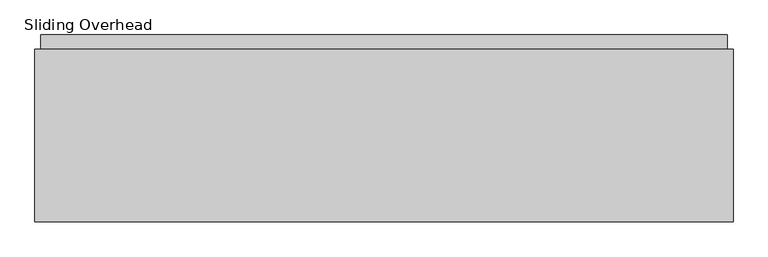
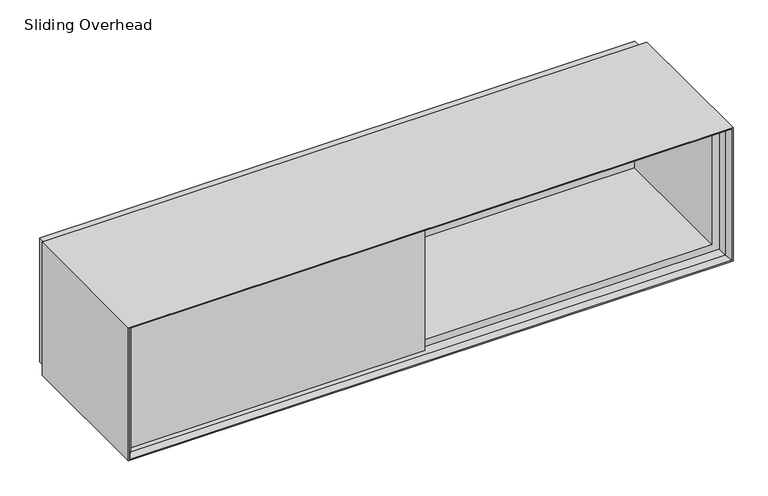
"""IFC4 building model written with IfcOpenShell, lengths in millimetres: furniture geometry."""

from ifc_helpers import new_model, si_unit, frame, origin, place, context, project, spatial, polyline, outline, extrude, faceted_brep, source, transform, mapped, element, save


def sliding_overhead_03807ef4(model_context):
    return source(origin(), model_context, "Body", "SolidModel", [
        extrude(outline(polyline([(609.6, 38.1), (31.75, 38.1), (31.75, 50.8), (609.6, 50.8), (609.6, 38.1)])), frame((0.0, 0.0, 1555.75), z_axis=(0.0, 0.0, 1.0), x_axis=(1.0, 0.0, 0.0)), (0.0, 0.0, 1.0), 292.1),
        extrude(outline(polyline([(762.0, 25.4), (12.7, 25.4), (12.7, 38.1), (762.0, 38.1), (762.0, 25.4)])), frame((0.0, 0.0, 1536.7), z_axis=(0.0, 0.0, 1.0), x_axis=(1.0, 0.0, 0.0)), (0.0, 0.0, 1.0), 330.2),
        extrude(outline(polyline([(768.35, 376.2375), (768.35, 50.8), (755.65, 50.8), (755.65, 376.2375), (768.35, 376.2375)])), frame((0.0, 0.0, 1555.75), z_axis=(0.0, 0.0, 1.0), x_axis=(1.0, 0.0, 0.0)), (0.0, 0.0, 1.0), 292.1),
        extrude(outline(polyline([(1511.3, 376.2375), (12.7, 376.2375), (12.7, 407.9875), (1511.3, 407.9875), (1511.3, 376.2375)])), frame((0.0, 0.0, 1536.7), z_axis=(0.0, 0.0, 1.0), x_axis=(1.0, 0.0, 0.0)), (0.0, 0.0, 1.0), 330.2),
        extrude(outline(polyline([(1866.9, 1511.3), (1866.9, 12.7), (1536.7, 12.7), (1536.7, 1511.3), (1866.9, 1511.3)]), holes=[polyline([(1847.85, 31.75), (1847.85, 1492.25), (1555.75, 1492.25), (1555.75, 31.75), (1847.85, 31.75)])]), frame((0.0, 38.1, 0.0), z_axis=(0.0, 1.0, 0.0), x_axis=(0.0, 0.0, 1.0)), (0.0, 0.0, 1.0), 338.1375),
        faceted_brep([(1511.3, 12.7, 1866.9), (1511.3, 376.2375, 1866.9), (1511.3, 376.2375, 1536.7), (1511.3, 12.7, 1536.7), (1520.825, 0.0, 1876.425), (1520.825, 0.0, 1527.175), (1524.0, 376.2375, 1879.6), (1524.0, 0.0, 1879.6), (1524.0, 0.0, 1524.0), (1524.0, 376.2375, 1524.0), (12.7, 376.2375, 1536.7), (12.7, 12.7, 1536.7), (3.175, 0.0, 1527.175), (0.0, 0.0, 1524.0), (0.0, 376.2375, 1524.0), (12.7, 376.2375, 1866.9), (12.7, 12.7, 1866.9), (3.175, 0.0, 1876.425), (0.0, 0.0, 1879.6), (0.0, 376.2375, 1879.6)], [[[0, 1, 2, 3]], [[4, 0, 3, 5]], [[6, 7, 8, 9]], [[3, 2, 10, 11]], [[5, 3, 11, 12]], [[9, 8, 13, 14]], [[11, 10, 15, 16]], [[12, 11, 16, 17]], [[14, 13, 18, 19]], [[9, 14, 19, 6], [1, 15, 10, 2]], [[16, 15, 1, 0]], [[17, 16, 0, 4]], [[7, 18, 13, 8], [5, 12, 17, 4]], [[19, 18, 7, 6]]]),
    ])


if __name__ == "__main__":
    model = new_model("IFC4")
    model_context = context("Model", 3, world=origin())
    ifc_project = project(units=[si_unit("LENGTHUNIT", "METRE", prefix="MILLI")], contexts=[model_context])
    site = spatial("IfcSite", under=ifc_project)
    building = spatial("IfcBuilding", under=site)
    placement = place(None, origin())
    sliding_overhead_shape = sliding_overhead_03807ef4(model_context)
    element("IfcFurniture", 1, ObjectType="Sliding Overhead : 1 1/4\" Backpanel - 60\" W", at=placement, inside=building, context=model_context, shape_type="MappedRepresentation", body=[
        mapped(sliding_overhead_shape, transform((0.0, 0.0, 0.0), x_axis=(1.0, 0.0, 0.0), y_axis=(0.0, 1.0, 0.0), z_axis=(0.0, 0.0, 1.0))),
    ])
    save(model, "model.ifc")
